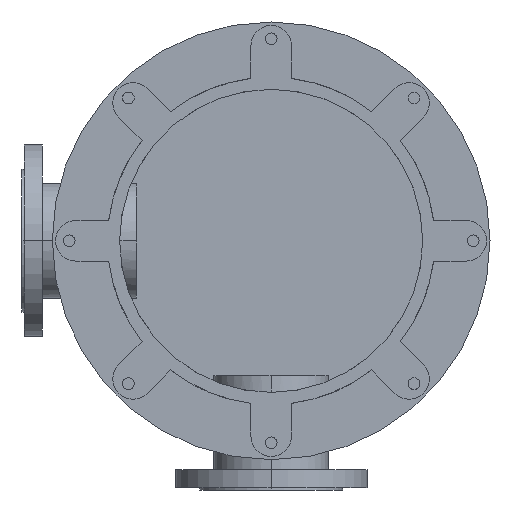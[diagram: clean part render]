
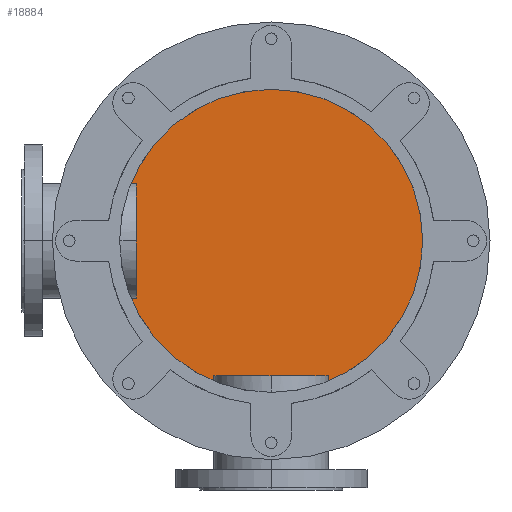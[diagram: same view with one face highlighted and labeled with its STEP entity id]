
A CAD part, front view. The second image highlights one B-rep face of the part: STEP entity #18884.
In plain terms, the highlighted planar face has unit normal (0, -1, 0).
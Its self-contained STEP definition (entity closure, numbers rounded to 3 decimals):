
#2860=CARTESIAN_POINT('',(0.,1004.,0.));
#2861=DIRECTION('',(0.,-1.,0.));
#2862=DIRECTION('',(0.,0.,-1.));
#2863=AXIS2_PLACEMENT_3D('',#2860,#2861,#2862);
#3031=CARTESIAN_POINT('',(0.,1004.,0.));
#3032=DIRECTION('',(0.,-1.,0.));
#3033=DIRECTION('',(0.,0.,1.));
#3034=AXIS2_PLACEMENT_3D('',#3031,#3032,#3033);
#9718=CARTESIAN_POINT('',(0.,1004.,240.));
#9719=CARTESIAN_POINT('',(0.,1004.,-240.));
#9720=VERTEX_POINT('',#9718);
#9721=VERTEX_POINT('',#9719);
#18875=CARTESIAN_POINT('',(0.,1004.,0.));
#18876=DIRECTION('',(0.,1.,0.));
#18877=DIRECTION('',(0.,0.,-1.));
#18878=AXIS2_PLACEMENT_3D('',#18875,#18876,#18877);
#18879=PLANE('',#18878);
#18880=ORIENTED_EDGE('',*,*,#14996,.F.);
#18881=ORIENTED_EDGE('',*,*,#14856,.F.);
#18882=EDGE_LOOP('',(#18880,#18881));
#18883=FACE_OUTER_BOUND('',#18882,.F.);
#18884=ADVANCED_FACE('',(#18883),#18879,.F.);
#2864=CIRCLE('',#2863,240.);
#3035=CIRCLE('',#3034,240.);
#14856=EDGE_CURVE('',#9721,#9720,#2864,.T.);
#14996=EDGE_CURVE('',#9720,#9721,#3035,.T.);
